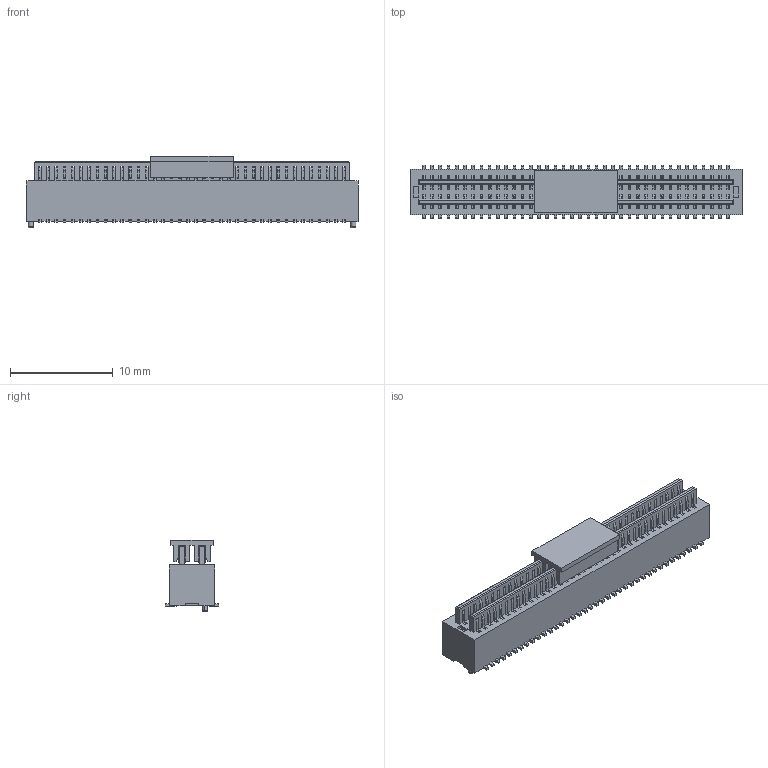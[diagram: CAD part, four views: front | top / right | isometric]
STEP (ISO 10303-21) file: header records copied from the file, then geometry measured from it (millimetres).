
FILE_DESCRIPTION (( 'STEP AP203' ), '1' );
FILE_NAME ('HC-PBB08-2-76-M-H4.0-G1-R-P-04(BTB0.8 双槽 公座 立贴 带柱 编带+盖)-HCTL.STEP', '2025-12-11T07:44:13', ( '' ), ( '' ), 'SwSTEP 2.0', 'SolidWorks 2025', '' );
FILE_SCHEMA (( 'CONFIG_CONTROL_DESIGN' ));
Products named in the file (1): HC-PBB08-2-76-M-H4.0-G1-R-P-04(BTB0.8 双槽 公座 立贴 带柱 编带+盖)-HCTL
Bounding box: 32.29 x 5.2 x 6.95 mm (x, y, z)
Volume: 644.7 mm3; surface area: 2959.8 mm2
Topology: 2 solids, 2 shells, 4412 faces, 14182 edges, 9248 vertices
Faces by surface type: plane 2884, cylinder 1524, torus 4
Entity records: 156677 total; most frequent: CARTESIAN_POINT 28755, ORIENTED_EDGE 28364, DIRECTION 25760, EDGE_CURVE 14182, VECTOR 10822, LINE 10822, VERTEX_POINT 9248, AXIS2_PLACEMENT_3D 7469
